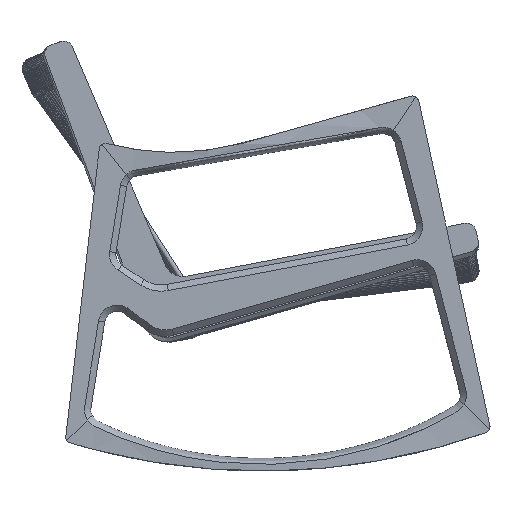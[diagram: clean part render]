
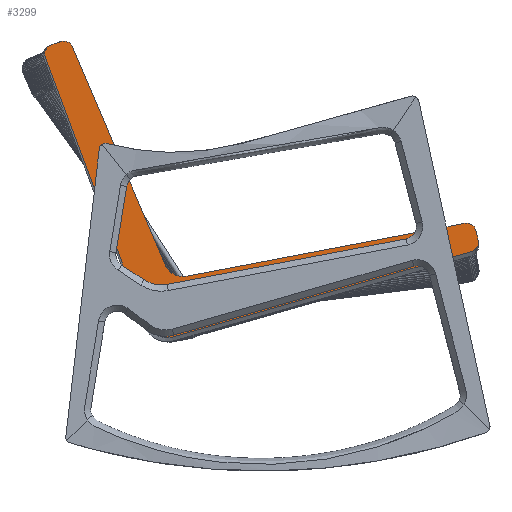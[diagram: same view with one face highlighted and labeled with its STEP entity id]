
A CAD part, left-side view. The second image highlights one B-rep face of the part: STEP entity #3299.
In plain terms, the highlighted planar face has unit normal (-1, 0, 0).
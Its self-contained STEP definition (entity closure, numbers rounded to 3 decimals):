
#3299=ADVANCED_FACE('',(#6311),#41008,.T.);
#6311=FACE_OUTER_BOUND('',#9323,.T.);
#9323=EDGE_LOOP('',(#20830,#20831,#20832,#20833,#20834,#20835));
#20830=ORIENTED_EDGE('',*,*,#27719,.F.);
#20831=ORIENTED_EDGE('',*,*,#27728,.T.);
#20832=ORIENTED_EDGE('',*,*,#27725,.T.);
#20833=ORIENTED_EDGE('',*,*,#27733,.T.);
#20834=ORIENTED_EDGE('',*,*,#27735,.F.);
#20835=ORIENTED_EDGE('',*,*,#27729,.T.);
#27719=EDGE_CURVE('',#37849,#37850,#34281,.T.);
#27725=EDGE_CURVE('',#37855,#37856,#34287,.T.);
#27728=EDGE_CURVE('',#37849,#37855,#34290,.T.);
#27729=EDGE_CURVE('',#37857,#37850,#34163,.T.);
#27733=EDGE_CURVE('',#37856,#37860,#34292,.T.);
#27735=EDGE_CURVE('',#37857,#37860,#34166,.T.);
#34163=(
BOUNDED_CURVE()
B_SPLINE_CURVE(3,(#150665,#150666,#150667,#150668),.UNSPECIFIED.,.F.,.F.)
B_SPLINE_CURVE_WITH_KNOTS((4,4),(0.,381.618),.UNSPECIFIED.)
CURVE()
GEOMETRIC_REPRESENTATION_ITEM()
RATIONAL_B_SPLINE_CURVE((1.,1.,1.,1.))
REPRESENTATION_ITEM('')
);
#34166=(
BOUNDED_CURVE()
B_SPLINE_CURVE(2,(#150687,#150688,#150689,#150690,#150691,#150692,#150693,
#150694,#150695,#150696,#150697,#150698,#150699,#150700,#150701),
 .UNSPECIFIED.,.F.,.F.)
B_SPLINE_CURVE_WITH_KNOTS((3,2,2,2,2,2,2,3),(-1640.761,-1600.1,
-1148.19,-1125.315,-1108.985,-1086.095,
-593.452,-533.771),.UNSPECIFIED.)
CURVE()
GEOMETRIC_REPRESENTATION_ITEM()
RATIONAL_B_SPLINE_CURVE((1.,0.779,1.,1.,1.,0.723,
1.,1.,1.,0.723,1.,1.,1.,0.734,1.))
REPRESENTATION_ITEM('')
);
#34281=B_SPLINE_CURVE_WITH_KNOTS('',3,(#150581,#150582,#150583,#150584,
#150585,#150586,#150587,#150588,#150589,#150590,#150591,#150592,#150593,
#150594,#150595,#150596,#150597,#150598),.UNSPECIFIED.,.F.,.F.,(4,2,2,2,
2,2,2,2,4),(0.,2.862,5.723,8.585,11.446,
14.308,17.169,20.031,22.892),
 .UNSPECIFIED.);
#34287=B_SPLINE_CURVE_WITH_KNOTS('',3,(#150641,#150642,#150643,#150644,
#150645,#150646,#150647,#150648,#150649,#150650,#150651,#150652,#150653,
#150654,#150655,#150656,#150657,#150658),.UNSPECIFIED.,.F.,.F.,(4,2,2,2,
2,2,2,2,4),(-23.542,-20.599,-17.656,-14.714,
-11.771,-8.828,-5.885,-2.943,
0.),.UNSPECIFIED.);
#34290=B_SPLINE_CURVE_WITH_KNOTS('',1,(#150663,#150664),.UNSPECIFIED.,.F.,
 .F.,(2,2),(-15.978,0.),.UNSPECIFIED.);
#34292=B_SPLINE_CURVE_WITH_KNOTS('',3,(#150681,#150682,#150683,#150684),
 .UNSPECIFIED.,.F.,.F.,(4,4),(-452.214,0.),.UNSPECIFIED.);
#37849=VERTEX_POINT('',#150568);
#37850=VERTEX_POINT('',#150569);
#37855=VERTEX_POINT('',#150574);
#37856=VERTEX_POINT('',#150575);
#37857=VERTEX_POINT('',#150576);
#37860=VERTEX_POINT('',#150579);
#41008=PLANE('',#42626);
#42626=AXIS2_PLACEMENT_3D('',#150566,#44191,$);
#44191=DIRECTION('',(-1.,0.,0.));
#150566=CARTESIAN_POINT('',(62.502,576.404,193.257));
#150568=CARTESIAN_POINT('',(62.502,684.763,684.196));
#150569=CARTESIAN_POINT('',(62.502,665.701,676.039));
#150574=CARTESIAN_POINT('',(62.502,699.724,678.586));
#150575=CARTESIAN_POINT('',(62.502,708.509,659.292));
#150576=CARTESIAN_POINT('',(62.502,517.181,328.072));
#150579=CARTESIAN_POINT('',(62.502,551.434,238.731));
#150581=CARTESIAN_POINT('',(62.502,684.763,684.196));
#150582=CARTESIAN_POINT('',(62.502,683.87,684.531));
#150583=CARTESIAN_POINT('',(62.502,682.945,684.78));
#150584=CARTESIAN_POINT('',(62.502,681.064,685.099));
#150585=CARTESIAN_POINT('',(62.502,680.109,685.169));
#150586=CARTESIAN_POINT('',(62.502,678.201,685.125));
#150587=CARTESIAN_POINT('',(62.502,677.25,685.012));
#150588=CARTESIAN_POINT('',(62.502,675.386,684.608));
#150589=CARTESIAN_POINT('',(62.502,674.473,684.317));
#150590=CARTESIAN_POINT('',(62.502,672.719,683.566));
#150591=CARTESIAN_POINT('',(62.502,671.878,683.107));
#150592=CARTESIAN_POINT('',(62.502,670.298,682.038));
#150593=CARTESIAN_POINT('',(62.502,669.559,681.427));
#150594=CARTESIAN_POINT('',(62.502,668.211,680.078));
#150595=CARTESIAN_POINT('',(62.502,667.601,679.339));
#150596=CARTESIAN_POINT('',(62.502,666.533,677.758));
#150597=CARTESIAN_POINT('',(62.502,666.075,676.916));
#150598=CARTESIAN_POINT('',(62.502,665.701,676.039));
#150641=CARTESIAN_POINT('',(62.502,699.724,678.586));
#150642=CARTESIAN_POINT('',(62.502,700.642,678.241));
#150643=CARTESIAN_POINT('',(62.502,701.527,677.806));
#150644=CARTESIAN_POINT('',(62.502,703.194,676.773));
#150645=CARTESIAN_POINT('',(62.502,703.977,676.174));
#150646=CARTESIAN_POINT('',(62.502,705.411,674.835));
#150647=CARTESIAN_POINT('',(62.502,706.062,674.095));
#150648=CARTESIAN_POINT('',(62.502,707.207,672.502));
#150649=CARTESIAN_POINT('',(62.502,707.702,671.65));
#150650=CARTESIAN_POINT('',(62.502,708.515,669.864));
#150651=CARTESIAN_POINT('',(62.502,708.833,668.931));
#150652=CARTESIAN_POINT('',(62.502,709.283,667.022));
#150653=CARTESIAN_POINT('',(62.502,709.413,666.045));
#150654=CARTESIAN_POINT('',(62.502,709.482,664.084));
#150655=CARTESIAN_POINT('',(62.502,709.42,663.1));
#150656=CARTESIAN_POINT('',(62.502,709.105,661.164));
#150657=CARTESIAN_POINT('',(62.502,708.852,660.211));
#150658=CARTESIAN_POINT('',(62.502,708.509,659.292));
#150663=CARTESIAN_POINT('',(62.502,684.763,684.196));
#150664=CARTESIAN_POINT('',(62.502,699.724,678.586));
#150665=CARTESIAN_POINT('',(62.502,517.181,328.072));
#150666=CARTESIAN_POINT('',(62.502,566.688,444.061));
#150667=CARTESIAN_POINT('',(62.502,616.194,560.05));
#150668=CARTESIAN_POINT('',(62.502,665.701,676.039));
#150681=CARTESIAN_POINT('',(62.502,708.509,659.292));
#150682=CARTESIAN_POINT('',(62.502,656.15,519.104));
#150683=CARTESIAN_POINT('',(62.502,603.793,378.919));
#150684=CARTESIAN_POINT('',(62.502,551.434,238.731));
#150687=CARTESIAN_POINT('',(62.502,517.181,328.072));
#150688=CARTESIAN_POINT('',(62.502,507.703,305.866));
#150689=CARTESIAN_POINT('',(62.502,483.984,310.377));
#150690=CARTESIAN_POINT('',(62.502,262.008,352.598));
#150691=CARTESIAN_POINT('',(62.502,40.033,394.82));
#150692=CARTESIAN_POINT('',(62.502,25.958,397.497));
#150693=CARTESIAN_POINT('',(62.502,22.638,383.56));
#150694=CARTESIAN_POINT('',(62.502,20.746,375.617));
#150695=CARTESIAN_POINT('',(62.502,18.854,367.674));
#150696=CARTESIAN_POINT('',(62.502,15.531,353.722));
#150697=CARTESIAN_POINT('',(62.502,29.32,349.777));
#150698=CARTESIAN_POINT('',(62.502,266.14,282.023));
#150699=CARTESIAN_POINT('',(62.502,502.96,214.269));
#150700=CARTESIAN_POINT('',(62.502,538.5,204.101));
#150701=CARTESIAN_POINT('',(62.502,551.434,238.731));
